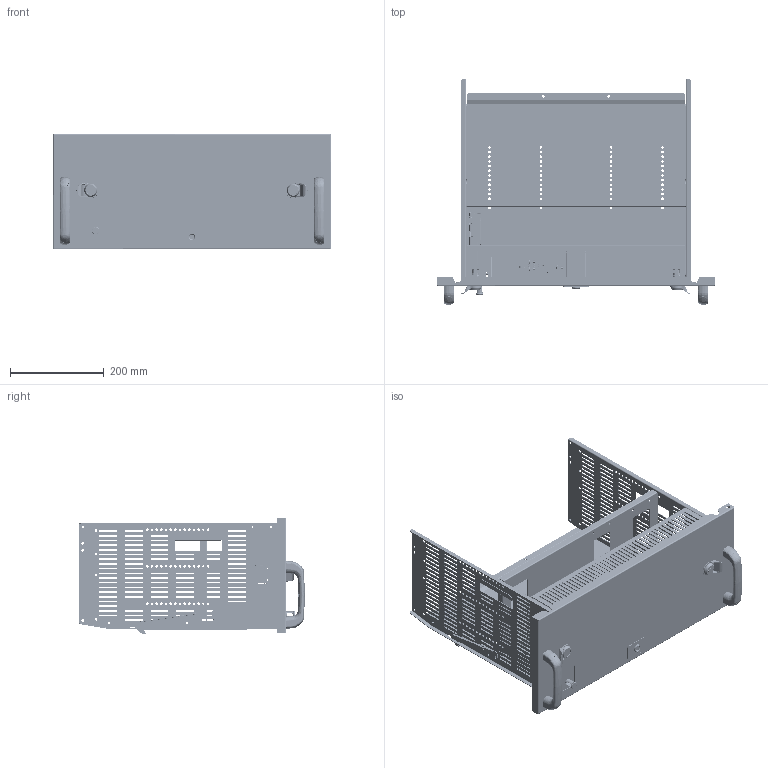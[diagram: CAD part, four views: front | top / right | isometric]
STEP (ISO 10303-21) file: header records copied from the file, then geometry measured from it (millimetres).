
FILE_DESCRIPTION(('CAx-IF Rec.Pracs.---Model Styling and Organization---1.2---2011-12-15','CAx-IF Rec.Pracs.---Geometric and Assembly Validation Properties---4.1---2014-06-16','CAx-IF Rec.Pracs.---PMI Polyline Presentation---2.0---2013-05-24'),'2;1');
FILE_NAME('R5M2W5M1B-L.stp','2021-05-05T12:28:31+03:00',(''),(''),'STEP Interface 4.4 by CT CoreTechnologie','3D_Evolution4.4 by CT CoreTechnologie','');
FILE_SCHEMA(('AUTOMOTIVE_DESIGN { 1 0 10303 214 1 1 1 1 }'));
Length unit declared in the file: millimetre
Products named in the file (73): R5M2W5M1B; RB.1946.00.00.0; RB.1942.00.00.0_-02; PF 3.5x7 RAMmcc 2.0_00; RB.1166.00.05.0; RB.1942.00.01.0_-02; RB.1166.00.02.0_¢ à 1; RB.1166.00.03.0_-00; RB.1166.00.04.0_-00; PF 7x14 RAMmcc 2.0_51; Ì6õ12-A5100231_straight; M6x20 GOST 17475-80 (DIN 965)_stright; AC00C148_AC00C148; 4.444.002; PR.DT477.120.02-poprawa; PR.DT477.120.01; RB.1505.00.00.1 ÑÁ; RB.1505.00.04.0_-00; RB.1503.00.00.0 ÑÁ; RB.1503.00.01.0_-00; RB.1503.00.02.0_-00; RB.1503.00.03.0_123; RB.1503.00.04.0_123; RB.1503.00.05.0_123; RB.1503.00.06.0_-00; RB.1503.00.07.0_-00; RB.1503.00.08.0_'­ ª«¥¥­­ ï'; RB.1505.00.05.0_-00; RB.1505.00.06.0; RB.1500.00.00.1 ÑÁ_-00 (ëª«); RB.1500.00.03.0; RB.1500.00.04.1_-00; RB.1500.00.05.1; RB.1500.00.06.0; RB.1500.00.07.0; RB.1500.00.08.1; M6-DIN 985 (ISO 10511) (CM250600)_stright; Ì4-GOST R 50273-92 (DIN 985)_stright DIN EN ISO 10511 - M4 - N; M4x25 GOST 17473-80 (DIN 7985)_stright; RB.1505.00.02.0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
Assembly tree (113 placements, depth 5):
  R5M2W5M1B
    RB.1946.00.00.0
    RB.1942.00.00.0_-02
      PF 3.5x7 RAMmcc 2.0_00
      RB.1166.00.05.0  x3
      RB.1942.00.01.0_-02
      RB.1166.00.02.0_¢ à 1
      RB.1166.00.03.0_-00
      RB.1166.00.04.0_-00
      PF 7x14 RAMmcc 2.0_51
      Ì6õ12-A5100231_straight
    M6x20 GOST 17475-80 (DIN 965)_stright  x3
    AC00C148_AC00C148  x3
    4.444.002  x2
      PR.DT477.120.02-poprawa
      PR.DT477.120.01
    RB.1505.00.00.1 ÑÁ
      RB.1505.00.04.0_-00
      RB.1503.00.00.0 ÑÁ
        RB.1503.00.01.0_-00
        RB.1503.00.02.0_-00
        RB.1503.00.03.0_123
        RB.1503.00.04.0_123
        RB.1503.00.05.0_123
        RB.1503.00.06.0_-00
        RB.1503.00.07.0_-00
      RB.1505.00.05.0_-00
      RB.1505.00.06.0
      RB.1500.00.00.1 ÑÁ_-00 (ëª«)
        RB.1500.00.03.0
        RB.1500.00.04.1_-00
        RB.1500.00.05.1
        RB.1500.00.06.0
        RB.1500.00.07.0
        RB.1500.00.08.1
        M6-DIN 985 (ISO 10511) (CM250600)_stright
        Ì4-GOST R 50273-92 (DIN 985)_stright DIN EN ISO 10511 - M4 - N
        M4x25 GOST 17473-80 (DIN 7985)_stright
      RB.1505.00.02.0  x2
      Ì4-GOST R 50273-92 (DIN 985)_stright DIN EN ISO 10511 - M4 - N  x10
      M5x12-DIN 7500M ISR_stright  x6
      RB.1505.00.01.1
      RB.1504.00.00.1 ÑÁ
        RB.1504.00.03.1
        RB.1504.01.00.0 ÑÁ
          RB.1504.01.01.0
        RB.1504.00.01.1
        RB.1504.00.02.1_-01
        RB.1504.00.02.1_-00
      M6-DIN 985 (ISO 10511) (CM250600)_stright
      RB.1505.00.03.0_-00
      A.6.01-GOST 11371-78 (DIN 125A) (CM240600)_ ©¡  A.6.016  11371-78
      RB.1513.00.00.0
      M5x8-DIN7500C_stright  x2
    RB.1943.00.00.0_-02
      RB.1499.00.02.0_-00  x3
      M6 art.MGR-MKO-0625_2¬¬  x3
      RB.1499.00.04.0_-00
      RB.1943.00.01.0_-02
    RB.1497.00.00.0 ÑÁ_-00
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Bounding box: 594 x 482.84 x 248.93 mm (x, y, z)
Surface area: 1777139.3 mm2 (no closed solid volume)
Topology: 0 solids, 159 shells, 5944 faces, 15798 edges, 10059 vertices
Faces by surface type: plane 3180, cylinder 1640, bspline 1124
Full cylindrical faces by diameter (mm): 3.2 x2
Entity records: 162781 total; most frequent: CARTESIAN_POINT 43178, ORIENTED_EDGE 24388, DIRECTION 23225, EDGE_CURVE 12218, VECTOR 8585, LINE 8585, VERTEX_POINT 7896, AXIS2_PLACEMENT_3D 7320
